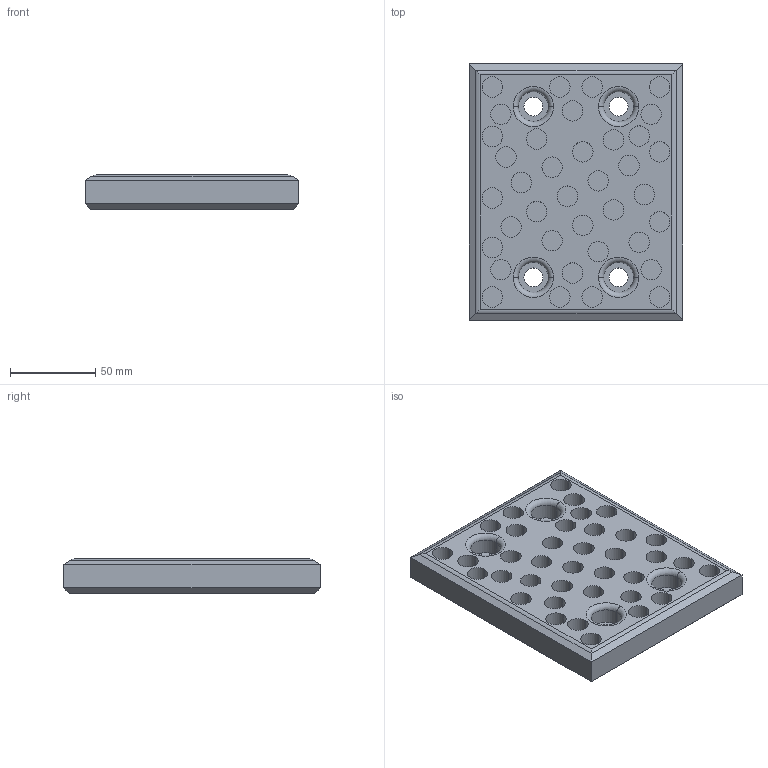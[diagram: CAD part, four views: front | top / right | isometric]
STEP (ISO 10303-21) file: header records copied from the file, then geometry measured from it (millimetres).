
FILE_DESCRIPTION (( 'STEP AP214' ), '1' );
FILE_NAME ('SW224-02-125x150.STEP', '2020-10-19T08:02:10', ( 'August' ), ( '' ), 'SwSTEP 2.0', 'SolidWorks 2018', '' );
FILE_SCHEMA (( 'AUTOMOTIVE_DESIGN' ));
Length unit declared in the file: millimetre
Products named in the file (1): SW224-02-125x150
Bounding box: 125 x 150 x 20 mm (x, y, z)
Volume: 314489.1 mm3; surface area: 61963.7 mm2
Topology: 1 solids, 1 shells, 157 faces, 322 edges, 208 vertices
Faces by surface type: cylinder 94, plane 55, torus 8
Entity records: 4827 total; most frequent: DIRECTION 822, CARTESIAN_POINT 771, ORIENTED_EDGE 644, AXIS2_PLACEMENT_3D 354, EDGE_CURVE 322, VERTEX_POINT 208, EDGE_LOOP 206, CIRCLE 196
